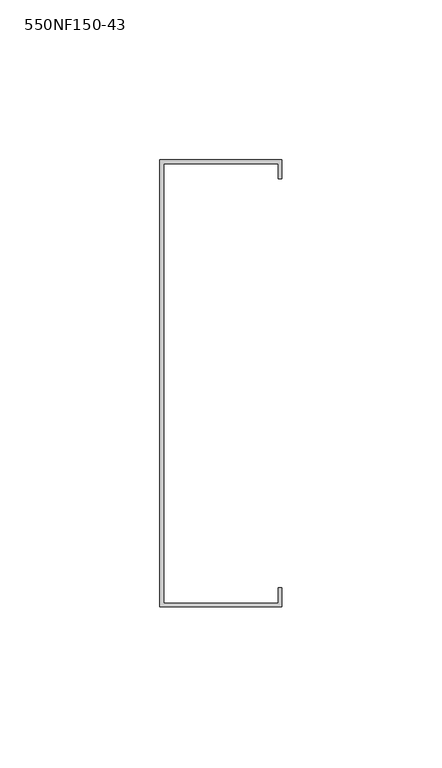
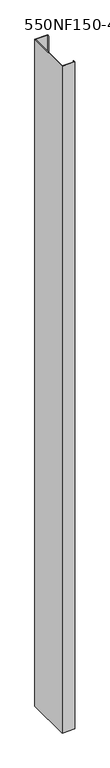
"""IFC4 building model written with IfcOpenShell, lengths in millimetres: column geometry, BIMSF-SSMA-S-Column : 550NF150-43."""

from ifc_helpers import new_model, si_unit, frame, origin, place, context, project, spatial, polyline, outline, extrude, source, transform, mapped, element, save


def column_550nf150_43_ac53dd8c(model_context):
    return source(origin(), model_context, "Body", "SweptSolid", [
        extrude(outline(polyline([(-11.9977877, -80.5871249), (-11.9977877, 59.1128751), (26.1022123, 59.1128751), (26.1022123, 53.1879908), (24.952528, 53.1879908), (24.952528, 57.9631908), (-10.8481035, 57.9631908), (-10.8481035, -79.4374407), (24.952528, -79.4374407), (24.952528, -74.6622407), (26.1022123, -74.6622407), (26.1022123, -80.5871249), (-11.9977877, -80.5871249)])), frame((0.0, 0.0, 5525.3929688), z_axis=(0.0, 0.0, 1.0), x_axis=(1.0, 0.0, 0.0)), (0.0, 0.0, 1.0), 2090.3729992),
    ])


if __name__ == "__main__":
    model = new_model("IFC4")
    model_context = context("Model", 3, world=origin())
    ifc_project = project(units=[si_unit("LENGTHUNIT", "METRE", prefix="MILLI")], contexts=[model_context])
    site = spatial("IfcSite", under=ifc_project)
    building = spatial("IfcBuilding", under=site)
    placement = place(None, origin())
    column_550nf150_43_shape = column_550nf150_43_ac53dd8c(model_context)
    element("IfcColumn", 1, ObjectType="BIMSF-SSMA-S-Column : 550NF150-43", at=placement, inside=building, context=model_context, shape_type="MappedRepresentation", body=[
        mapped(column_550nf150_43_shape, transform((0.0, 0.0, 0.0), x_axis=(1.0, 0.0, 0.0), y_axis=(0.0, 1.0, 0.0), z_axis=(0.0, 0.0, 1.0))),
    ])
    save(model, "model.ifc")
